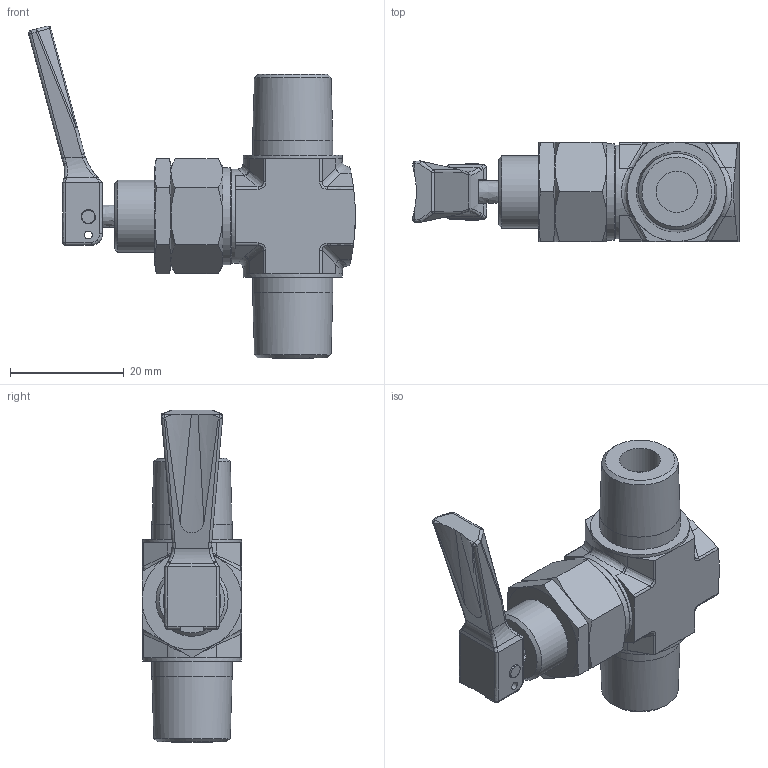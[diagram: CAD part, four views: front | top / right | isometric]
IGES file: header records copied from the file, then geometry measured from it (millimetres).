
Global section: file name: STV2-M4N; native system: Autodesk Inventor 2016; preprocessor: unknown; author: 이승민,,11,0; organization: 20161227.103014; date: 20161229.080815; units: millimetre
Bounding box: 57.38 x 17.5 x 58.3 mm (x, y, z)
Volume: 16128.6 mm3; surface area: 8528.7 mm2
Topology: 6 solids, 6 shells, 264 faces, 654 edges, 415 vertices
Faces by surface type: bspline 264
